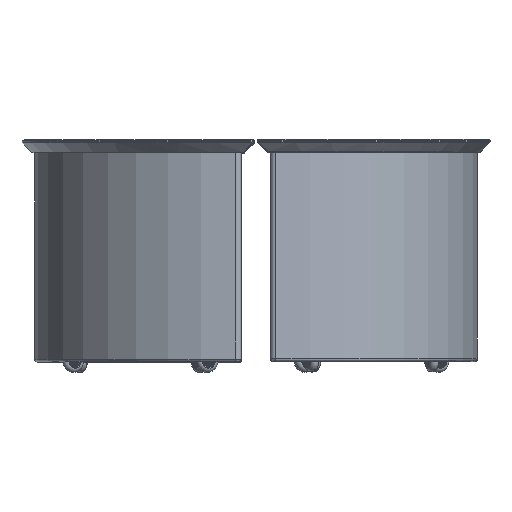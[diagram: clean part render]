
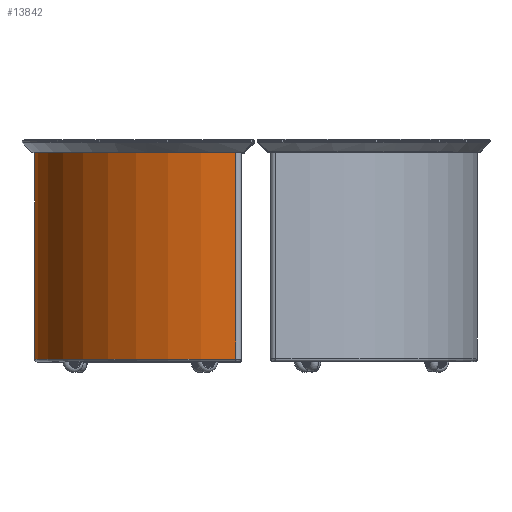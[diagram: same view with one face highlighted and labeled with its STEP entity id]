
A CAD part, top view. The second image highlights one B-rep face of the part: STEP entity #13842.
In plain terms, the highlighted cylindrical face has radius 400 mm (diameter 800 mm), a partial arc.
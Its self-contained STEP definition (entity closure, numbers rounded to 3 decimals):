
#1826=FACE_OUTER_BOUND('',#2636,.T.);
#2636=EDGE_LOOP('',(#11479,#11480,#11481,#11482));
#3517=LINE('',#25203,#4418);
#3520=LINE('',#25214,#4421);
#4418=VECTOR('',#18563,10.);
#4421=VECTOR('',#18578,10.);
#5151=CIRCLE('',#15191,400.);
#5159=CIRCLE('',#15205,400.);
#6253=VERTEX_POINT('',#25148);
#6254=VERTEX_POINT('',#25152);
#6261=VERTEX_POINT('',#25202);
#6262=VERTEX_POINT('',#25206);
#8056=EDGE_CURVE('',#6254,#6253,#5151,.T.);
#8069=EDGE_CURVE('',#6253,#6261,#3517,.T.);
#8071=EDGE_CURVE('',#6261,#6262,#5159,.T.);
#8075=EDGE_CURVE('',#6262,#6254,#3520,.T.);
#11479=ORIENTED_EDGE('',*,*,#8056,.F.);
#11480=ORIENTED_EDGE('',*,*,#8075,.F.);
#11481=ORIENTED_EDGE('',*,*,#8071,.F.);
#11482=ORIENTED_EDGE('',*,*,#8069,.F.);
#13214=CYLINDRICAL_SURFACE('',#15209,400.);
#13842=ADVANCED_FACE('',(#1826),#13214,.T.);
#15191=AXIS2_PLACEMENT_3D('',#25154,#18533,#18534);
#15205=AXIS2_PLACEMENT_3D('',#25207,#18568,#18569);
#15209=AXIS2_PLACEMENT_3D('',#25215,#18579,#18580);
#18533=DIRECTION('center_axis',(0.,-1.,0.));
#18534=DIRECTION('ref_axis',(0.707,0.,-0.707));
#18563=DIRECTION('',(0.,1.,0.));
#18568=DIRECTION('center_axis',(0.,1.,0.));
#18569=DIRECTION('ref_axis',(1.,0.,0.));
#18578=DIRECTION('',(0.,-1.,0.));
#18579=DIRECTION('center_axis',(0.,-1.,0.));
#18580=DIRECTION('ref_axis',(1.,0.,0.));
#25148=CARTESIAN_POINT('',(399.868,25.,-10.256));
#25152=CARTESIAN_POINT('',(10.256,25.,-399.868));
#25154=CARTESIAN_POINT('Origin',(0.,25.,0.));
#25202=CARTESIAN_POINT('',(399.868,425.,-10.256));
#25203=CARTESIAN_POINT('',(399.868,425.,-10.256));
#25206=CARTESIAN_POINT('',(10.256,425.,-399.868));
#25207=CARTESIAN_POINT('Origin',(0.,425.,0.));
#25214=CARTESIAN_POINT('',(10.256,425.,-399.868));
#25215=CARTESIAN_POINT('Origin',(0.,425.,0.));
